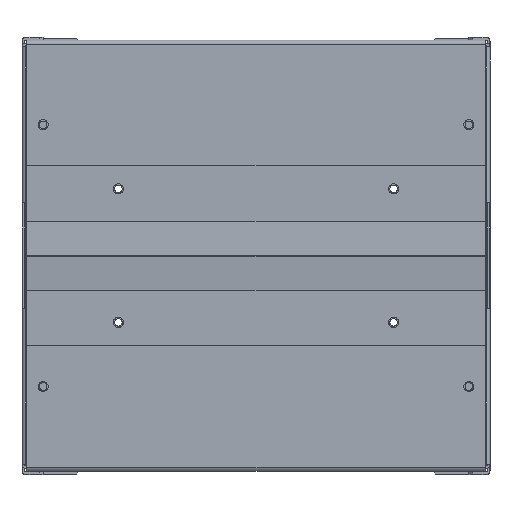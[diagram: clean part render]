
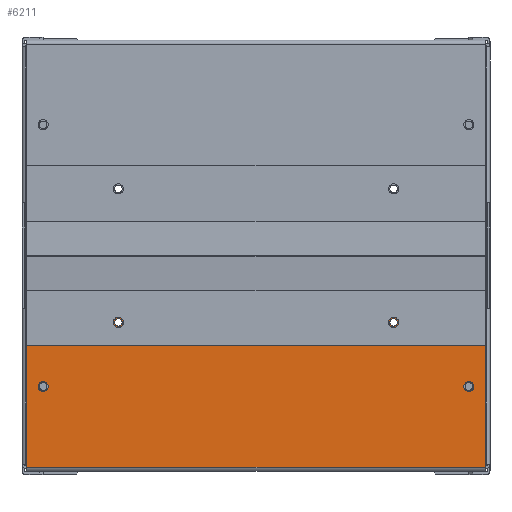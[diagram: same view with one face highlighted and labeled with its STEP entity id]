
A CAD part, top view. The second image highlights one B-rep face of the part: STEP entity #6211.
In plain terms, the highlighted planar face has unit normal (0, 0, 1).
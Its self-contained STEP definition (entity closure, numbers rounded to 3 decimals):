
#4916=CARTESIAN_POINT(' ',(113.25,0.,0.));
#4917=VERTEX_POINT(' ',#4916);
#4931=CARTESIAN_POINT(' ',(116.,0.,0.));
#4936=DIRECTION(' ',(0.,-0.,1.));
#4941=DIRECTION(' ',(-1.,0.,0.));
#4946=AXIS2_PLACEMENT_3D(' ',#4931,#4936,#4941);
#4951=CIRCLE('',#4946,2.75);
#4956=CARTESIAN_POINT(' ',(118.75,0.,0.));
#4957=VERTEX_POINT(' ',#4956);
#4961=EDGE_CURVE(' ',#4917,#4957,#4951,.T.);
#5626=CARTESIAN_POINT(' ',(116.,0.,0.));
#5631=DIRECTION(' ',(0.,0.,1.));
#5636=DIRECTION(' ',(1.,0.,0.));
#5641=AXIS2_PLACEMENT_3D(' ',#5626,#5631,#5636);
#5646=CIRCLE('',#5641,2.75);
#5651=EDGE_CURVE(' ',#4957,#4917,#5646,.T.);
#5676=DIRECTION(' ',(-0.,0.,1.));
#5681=CARTESIAN_POINT(' ',(-125.,-44.5,0.));
#5686=DIRECTION(' ',(1.,0.,0.));
#5691=AXIS2_PLACEMENT_3D(' ',#5681,#5676,#5686);
#5696=PLANE('NONE',#5691);
#5701=CARTESIAN_POINT(' ',(-125.,43.9,0.));
#5706=DIRECTION(' ',(0.,-1.,0.));
#5711=VECTOR(' ',#5706,1.);
#5716=LINE('',#5701,#5711);
#5721=CARTESIAN_POINT(' ',(-125.,43.9,0.));
#5722=VERTEX_POINT(' ',#5721);
#5726=CARTESIAN_POINT(' ',(-125.,-41.5,0.));
#5727=VERTEX_POINT(' ',#5726);
#5731=EDGE_CURVE(' ',#5722,#5727,#5716,.T.);
#5736=ORIENTED_EDGE(' ',*,*,#5731,.T.);
#5741=CARTESIAN_POINT(' ',(-125.,-41.5,0.));
#5746=DIRECTION(' ',(0.707,-0.707,0.));
#5751=VECTOR(' ',#5746,1.);
#5756=LINE('',#5741,#5751);
#5761=CARTESIAN_POINT(' ',(-122.,-44.5,0.));
#5762=VERTEX_POINT(' ',#5761);
#5766=EDGE_CURVE(' ',#5727,#5762,#5756,.T.);
#5771=ORIENTED_EDGE(' ',*,*,#5766,.T.);
#5776=CARTESIAN_POINT(' ',(-122.,-44.5,0.));
#5781=DIRECTION(' ',(1.,0.,0.));
#5786=VECTOR(' ',#5781,1.);
#5791=LINE('',#5776,#5786);
#5796=CARTESIAN_POINT(' ',(122.,-44.5,0.));
#5797=VERTEX_POINT(' ',#5796);
#5801=EDGE_CURVE(' ',#5762,#5797,#5791,.T.);
#5806=ORIENTED_EDGE(' ',*,*,#5801,.T.);
#5811=CARTESIAN_POINT(' ',(122.,-44.5,0.));
#5816=DIRECTION(' ',(0.707,0.707,0.));
#5821=VECTOR(' ',#5816,1.);
#5826=LINE('',#5811,#5821);
#5831=CARTESIAN_POINT(' ',(125.,-41.5,0.));
#5832=VERTEX_POINT(' ',#5831);
#5836=EDGE_CURVE(' ',#5797,#5832,#5826,.T.);
#5841=ORIENTED_EDGE(' ',*,*,#5836,.T.);
#5846=CARTESIAN_POINT(' ',(125.,-41.5,0.));
#5851=DIRECTION(' ',(0.,1.,0.));
#5856=VECTOR(' ',#5851,1.);
#5861=LINE('',#5846,#5856);
#5866=CARTESIAN_POINT(' ',(125.,43.9,0.));
#5867=VERTEX_POINT(' ',#5866);
#5871=EDGE_CURVE(' ',#5832,#5867,#5861,.T.);
#5876=ORIENTED_EDGE(' ',*,*,#5871,.T.);
#5881=CARTESIAN_POINT(' ',(125.,43.9,0.));
#5886=DIRECTION(' ',(-1.,0.,0.));
#5891=VECTOR(' ',#5886,1.);
#5896=LINE('',#5881,#5891);
#5901=EDGE_CURVE(' ',#5867,#5722,#5896,.T.);
#5906=ORIENTED_EDGE(' ',*,*,#5901,.T.);
#5911=EDGE_LOOP(' ',(#5736,#5771,#5806,#5841,#5876,#5906));
#5916=FACE_OUTER_BOUND(' ',#5911,.T.);
#5921=ORIENTED_EDGE(' ',*,*,#5651,.F.);
#5926=ORIENTED_EDGE(' ',*,*,#4961,.F.);
#5931=EDGE_LOOP(' ',(#5921,#5926));
#5936=FACE_BOUND(' ',#5931,.T.);
#5941=CARTESIAN_POINT(' ',(-116.,0.,0.));
#5946=DIRECTION(' ',(0.,0.,1.));
#5951=DIRECTION(' ',(1.,0.,0.));
#5956=AXIS2_PLACEMENT_3D(' ',#5941,#5946,#5951);
#5961=CIRCLE('',#5956,2.75);
#5966=CARTESIAN_POINT(' ',(-113.25,0.,0.));
#5967=VERTEX_POINT(' ',#5966);
#5971=CARTESIAN_POINT(' ',(-118.75,0.,0.));
#5972=VERTEX_POINT(' ',#5971);
#5976=EDGE_CURVE(' ',#5967,#5972,#5961,.T.);
#5981=ORIENTED_EDGE(' ',*,*,#5976,.F.);
#5986=CARTESIAN_POINT(' ',(-116.,0.,0.));
#5991=DIRECTION(' ',(0.,-0.,1.));
#5996=DIRECTION(' ',(-1.,0.,0.));
#6001=AXIS2_PLACEMENT_3D(' ',#5986,#5991,#5996);
#6006=CIRCLE('',#6001,2.75);
#6011=EDGE_CURVE(' ',#5972,#5967,#6006,.T.);
#6016=ORIENTED_EDGE(' ',*,*,#6011,.F.);
#6021=EDGE_LOOP(' ',(#5981,#6016));
#6026=FACE_BOUND(' ',#6021,.T.);
#6031=CARTESIAN_POINT(' ',(-75.,-35.,0.));
#6036=DIRECTION(' ',(0.,0.,1.));
#6041=DIRECTION(' ',(1.,0.,0.));
#6046=AXIS2_PLACEMENT_3D(' ',#6031,#6036,#6041);
#6051=CIRCLE('',#6046,2.1);
#6056=CARTESIAN_POINT(' ',(-72.9,-35.,0.));
#6057=VERTEX_POINT(' ',#6056);
#6061=CARTESIAN_POINT(' ',(-77.1,-35.,0.));
#6062=VERTEX_POINT(' ',#6061);
#6066=EDGE_CURVE(' ',#6057,#6062,#6051,.T.);
#6071=ORIENTED_EDGE(' ',*,*,#6066,.F.);
#6076=CARTESIAN_POINT(' ',(-75.,-35.,0.));
#6081=DIRECTION(' ',(0.,-0.,1.));
#6086=DIRECTION(' ',(-1.,0.,0.));
#6091=AXIS2_PLACEMENT_3D(' ',#6076,#6081,#6086);
#6096=CIRCLE('',#6091,2.1);
#6101=EDGE_CURVE(' ',#6062,#6057,#6096,.T.);
#6106=ORIENTED_EDGE(' ',*,*,#6101,.F.);
#6111=EDGE_LOOP(' ',(#6071,#6106));
#6116=FACE_BOUND(' ',#6111,.T.);
#6121=CARTESIAN_POINT(' ',(75.,-35.,0.));
#6126=DIRECTION(' ',(0.,0.,1.));
#6131=DIRECTION(' ',(1.,0.,0.));
#6136=AXIS2_PLACEMENT_3D(' ',#6121,#6126,#6131);
#6141=CIRCLE('',#6136,2.1);
#6146=CARTESIAN_POINT(' ',(77.1,-35.,0.));
#6147=VERTEX_POINT(' ',#6146);
#6151=CARTESIAN_POINT(' ',(72.9,-35.,0.));
#6152=VERTEX_POINT(' ',#6151);
#6156=EDGE_CURVE(' ',#6147,#6152,#6141,.T.);
#6161=ORIENTED_EDGE(' ',*,*,#6156,.F.);
#6166=CARTESIAN_POINT(' ',(75.,-35.,0.));
#6171=DIRECTION(' ',(0.,-0.,1.));
#6176=DIRECTION(' ',(-1.,0.,0.));
#6181=AXIS2_PLACEMENT_3D(' ',#6166,#6171,#6176);
#6186=CIRCLE('',#6181,2.1);
#6191=EDGE_CURVE(' ',#6152,#6147,#6186,.T.);
#6196=ORIENTED_EDGE(' ',*,*,#6191,.F.);
#6201=EDGE_LOOP(' ',(#6161,#6196));
#6206=FACE_BOUND(' ',#6201,.T.);
#6211=ADVANCED_FACE('NONE',(#5916,#5936,#6026,#6116,#6206),#5696,.T.);
